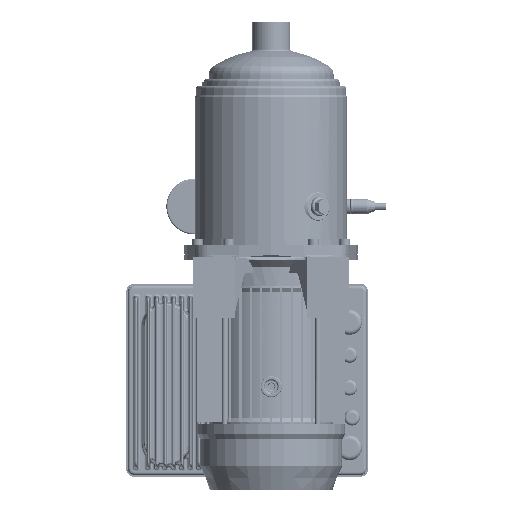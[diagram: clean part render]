
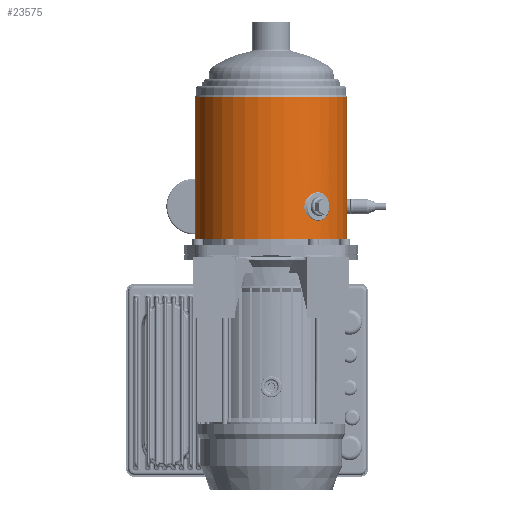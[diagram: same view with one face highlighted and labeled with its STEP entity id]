
A CAD part, front view. The second image highlights one B-rep face of the part: STEP entity #23575.
In plain terms, the highlighted cylindrical face has radius 72 mm (diameter 144 mm), a partial arc.
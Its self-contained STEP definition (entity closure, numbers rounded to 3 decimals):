
#20710=CARTESIAN_POINT('',(0.,8.4,0.));
#20711=DIRECTION('',(0.,1.,0.));
#20712=DIRECTION('',(0.,0.,-1.));
#20713=AXIS2_PLACEMENT_3D('',#20710,#20711,#20712);
#20784=DIRECTION('',(0.,1.,0.));
#20785=VECTOR('',#20784,134.614);
#20786=CARTESIAN_POINT('',(0.,8.4,-72.));
#20787=LINE('',#20786,#20785);
#20791=DIRECTION('',(0.,-1.,0.));
#20792=VECTOR('',#20791,134.614);
#20793=CARTESIAN_POINT('',(0.,143.014,72.));
#20794=LINE('',#20793,#20792);
#20798=CARTESIAN_POINT('',(-64.772,39.,
31.441));
#20799=CARTESIAN_POINT('',(-64.772,37.551,
31.441));
#20800=CARTESIAN_POINT('',(-64.552,34.753,
31.901));
#20801=CARTESIAN_POINT('',(-63.436,30.588,
34.11));
#20802=CARTESIAN_POINT('',(-61.387,27.256,
37.728));
#20803=CARTESIAN_POINT('',(-58.476,25.423,42.129));
#20804=CARTESIAN_POINT('',(-55.02,25.424,
46.552));
#20805=CARTESIAN_POINT('',(-51.454,27.259,
50.441));
#20806=CARTESIAN_POINT('',(-48.44,30.593,
53.303));
#20807=CARTESIAN_POINT('',(-46.568,34.76,
54.919));
#20808=CARTESIAN_POINT('',(-46.177,37.554,
55.242));
#20809=CARTESIAN_POINT('',(-46.177,39.,
55.242));
#20814=CARTESIAN_POINT('',(-46.177,39.,
55.242));
#20815=CARTESIAN_POINT('',(-46.177,40.449,
55.242));
#20816=CARTESIAN_POINT('',(-46.57,43.247,
54.917));
#20817=CARTESIAN_POINT('',(-48.443,47.412,
53.3));
#20818=CARTESIAN_POINT('',(-51.458,50.744,
50.436));
#20819=CARTESIAN_POINT('',(-55.024,52.577,
46.547));
#20820=CARTESIAN_POINT('',(-58.48,52.576,
42.123));
#20821=CARTESIAN_POINT('',(-61.39,50.741,
37.722));
#20822=CARTESIAN_POINT('',(-63.438,47.407,
34.106));
#20823=CARTESIAN_POINT('',(-64.554,43.24,
31.898));
#20824=CARTESIAN_POINT('',(-64.772,40.446,
31.441));
#20825=CARTESIAN_POINT('',(-64.772,39.,
31.441));
#20838=CARTESIAN_POINT('',(0.,143.014,0.));
#20839=DIRECTION('',(0.,-1.,0.));
#20840=DIRECTION('',(0.,0.,1.));
#20841=AXIS2_PLACEMENT_3D('',#20838,#20839,#20840);
#22830=CARTESIAN_POINT('',(0.,8.4,72.));
#22831=CARTESIAN_POINT('',(0.,8.4,-72.));
#22832=VERTEX_POINT('',#22830);
#22833=VERTEX_POINT('',#22831);
#22834=CARTESIAN_POINT('',(0.,143.014,-72.));
#22835=VERTEX_POINT('',#22834);
#22836=CARTESIAN_POINT('',(0.,143.014,72.));
#22837=VERTEX_POINT('',#22836);
#22842=VERTEX_POINT('',#20798);
#22843=VERTEX_POINT('',#20809);
#23557=CARTESIAN_POINT('',(0.,145.707,0.));
#23558=DIRECTION('',(0.,-1.,0.));
#23559=DIRECTION('',(0.,0.,1.));
#23560=AXIS2_PLACEMENT_3D('',#23557,#23558,#23559);
#23561=CYLINDRICAL_SURFACE('',#23560,72.);
#23562=ORIENTED_EDGE('',*,*,#23535,.T.);
#23564=ORIENTED_EDGE('',*,*,#23563,.F.);
#23565=ORIENTED_EDGE('',*,*,#23538,.T.);
#23566=ORIENTED_EDGE('',*,*,#23525,.F.);
#23567=EDGE_LOOP('',(#23562,#23564,#23565,#23566));
#23568=FACE_OUTER_BOUND('',#23567,.F.);
#23570=ORIENTED_EDGE('',*,*,#23569,.T.);
#23572=ORIENTED_EDGE('',*,*,#23571,.T.);
#23573=EDGE_LOOP('',(#23570,#23572));
#23574=FACE_BOUND('',#23573,.F.);
#20714=CIRCLE('',#20713,72.);
#20810=B_SPLINE_CURVE_WITH_KNOTS('',3,(#20798,#20799,#20800,#20801,#20802,
#20803,#20804,#20805,#20806,#20807,#20808,#20809),.UNSPECIFIED.,.F.,.F.,(4,1,1,
1,1,1,1,1,1,4),(0.,0.111,0.222,0.333,
0.444,0.556,0.667,0.778,
0.889,1.),.UNSPECIFIED.);
#20826=B_SPLINE_CURVE_WITH_KNOTS('',3,(#20814,#20815,#20816,#20817,#20818,
#20819,#20820,#20821,#20822,#20823,#20824,#20825),.UNSPECIFIED.,.F.,.F.,(4,1,1,
1,1,1,1,1,1,4),(0.,0.111,0.222,0.333,
0.444,0.556,0.667,0.778,
0.889,1.),.UNSPECIFIED.);
#20842=CIRCLE('',#20841,72.);
#23525=EDGE_CURVE('',#22833,#22832,#20714,.T.);
#23535=EDGE_CURVE('',#22833,#22835,#20787,.T.);
#23538=EDGE_CURVE('',#22837,#22832,#20794,.T.);
#23563=EDGE_CURVE('',#22837,#22835,#20842,.T.);
#23569=EDGE_CURVE('',#22842,#22843,#20810,.T.);
#23571=EDGE_CURVE('',#22843,#22842,#20826,.T.);
#23575=ADVANCED_FACE('',(#23568,#23574),#23561,.T.);
